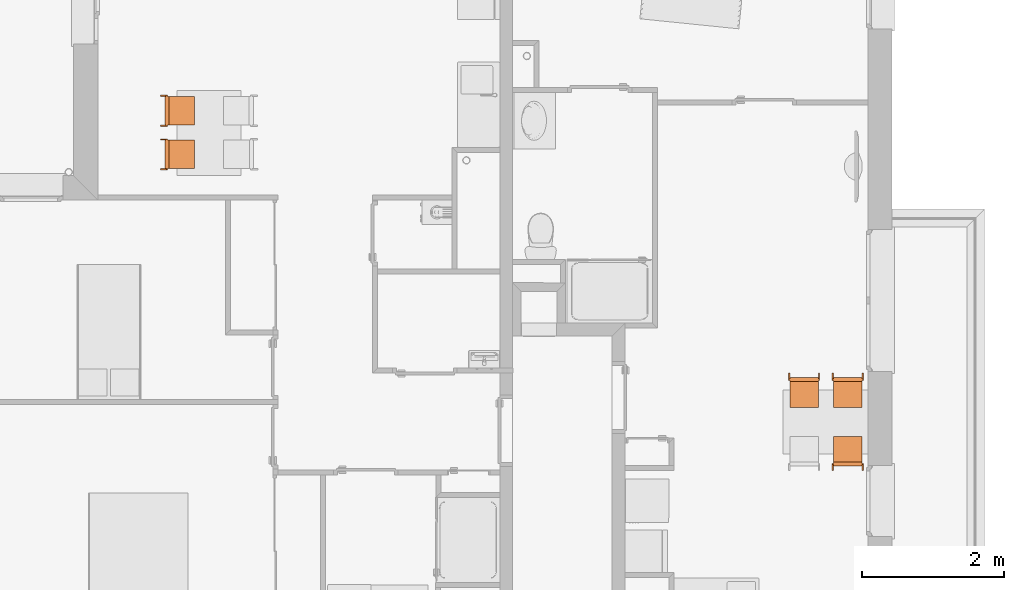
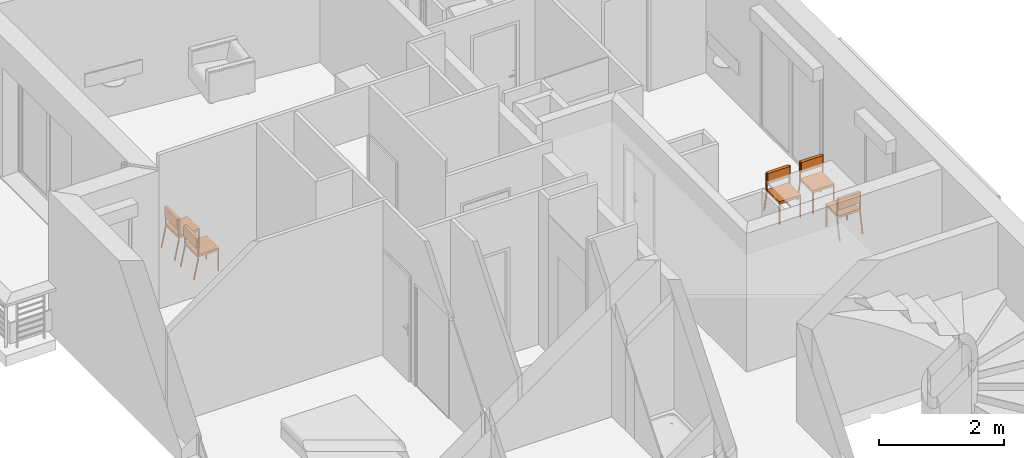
# One storey, part 150 of 164: 5 proxies.
"""IFC2X3 building model written with IfcOpenShell, lengths in millimetres."""

import ifcopenshell
import ifcopenshell.guid

model = None  # the IFC model being written
_history = None  # IfcOwnerHistory: only IFC2X3 demands one
_inside = {}  # id of a spatial element -> (the spatial element, [elements in it])
_under = {}  # id of a project, library or spatial element -> (it, [spatial elements below it])
_declared = {}  # id of a project -> (the project, [libraries it declares])
_typed = {}  # id of a type object -> (the type object, [elements of that type])
_made_of = {}  # id of a material, layer set ... -> (it, [elements and type objects made of it])


def new_model(schema):
    """Start an empty IFC model of exactly this schema.

    Asked for "IFC4X3", IfcOpenShell would pick the latest addendum, in which some entities
    have other attributes; the version numbers below select the first issue.
    IFC2X3 requires an IfcOwnerHistory on every rooted entity: one is made here for all.
    """
    global model, _history
    if schema == "IFC4X3":
        model = ifcopenshell.file(schema_version=(4, 3, 0, 0))
    else:
        model = ifcopenshell.file(schema=schema)
    _inside.clear()
    _under.clear()
    _declared.clear()
    _typed.clear()
    _made_of.clear()
    _history = None
    if model.schema == "IFC2X3":
        org = make("IfcOrganization", Name="unknown")
        user = make(
            "IfcPersonAndOrganization",
            ThePerson=make("IfcPerson", FamilyName="unknown"),
            TheOrganization=org,
        )
        app = make(
            "IfcApplication",
            ApplicationDeveloper=org,
            Version="unknown",
            ApplicationFullName="unknown",
            ApplicationIdentifier="unknown",
        )
        _history = make(
            "IfcOwnerHistory",
            OwningUser=user,
            OwningApplication=app,
            ChangeAction="ADDED",
            CreationDate=0,
        )
    return model


def make(cls, **values):
    """One entity of the class cls with the attributes given. An attribute that is None is left unset."""
    return model.create_entity(
        cls, **{name: value for name, value in values.items() if value is not None}
    )


def entity(cls, *values):
    """Any entity or typed value of the class cls, its attributes in the order of the schema. None: left unset."""
    e = model.create_entity(cls)
    for i, value in enumerate(values):
        if value is not None:
            e[i] = value
    return e


def rooted(cls, **values):
    """An entity with a GlobalId (a new one), such as an element, a storey or a relation."""
    return make(cls, GlobalId=ifcopenshell.guid.new(), OwnerHistory=_history, **values)


def si_unit(unit_type, name, prefix=None):
    """IfcSIUnit, for example si_unit("LENGTHUNIT", "METRE", prefix="MILLI")."""
    return make("IfcSIUnit", UnitType=unit_type, Prefix=prefix, Name=name)


def converted_unit(unit_type, name, factor, base, dimensions=None, offset=None):
    """IfcConversionBasedUnit, such as the inch: factor (a typed value) times the base unit."""
    return make(
        "IfcConversionBasedUnit"
        if offset is None
        else "IfcConversionBasedUnitWithOffset",
        ConversionOffset=offset,
        Dimensions=None
        if dimensions is None
        else entity("IfcDimensionalExponents", *dimensions),
        UnitType=unit_type,
        Name=name,
        ConversionFactor=make(
            "IfcMeasureWithUnit", ValueComponent=factor, UnitComponent=base
        ),
    )


def derived_unit(unit_type, elements):
    """IfcDerivedUnit: a product of units, each with its exponent."""
    return make(
        "IfcDerivedUnit",
        Elements=[
            make("IfcDerivedUnitElement", Unit=unit, Exponent=power)
            for unit, power in elements
        ],
        UnitType=unit_type,
    )


def money_unit(currency):
    """IfcMonetaryUnit."""
    return make("IfcMonetaryUnit", Currency=currency)


def assignment(units):
    """IfcUnitAssignment: the units of a project."""
    return None if units is None else make("IfcUnitAssignment", Units=units)


def point(xyz):
    """IfcCartesianPoint."""
    return None if xyz is None else make("IfcCartesianPoint", Coordinates=xyz)


def direction(xyz):
    """IfcDirection."""
    return None if xyz is None else make("IfcDirection", DirectionRatios=xyz)


def frame(location, z_axis=None, x_axis=None):
    """IfcAxis2Placement3D, a coordinate frame: its origin and axes. An axis left out is left unset."""
    return make(
        "IfcAxis2Placement3D",
        Location=point(location),
        Axis=direction(z_axis),
        RefDirection=direction(x_axis),
    )


def origin_with_axes():
    """The frame at (0, 0, 0) with the z axis (0, 0, 1) and the x axis (1, 0, 0) written out."""
    return frame((0.0, 0.0, 0.0), z_axis=(0.0, 0.0, 1.0), x_axis=(1.0, 0.0, 0.0))


def place(relative_to, where):
    """IfcLocalPlacement: puts the frame where relative to a parent placement (None: the world)."""
    return make(
        "IfcLocalPlacement", PlacementRelTo=relative_to, RelativePlacement=where
    )


def context(
    kind, dimensions, precision=None, world=None, true_north=None, identifier=None
):
    """IfcGeometricRepresentationContext, for example the 3D "Model" context."""
    return make(
        "IfcGeometricRepresentationContext",
        ContextIdentifier=identifier,
        ContextType=kind,
        CoordinateSpaceDimension=dimensions,
        Precision=precision,
        WorldCoordinateSystem=world,
        TrueNorth=true_north,
    )


def subcontext(parent, identifier, kind, view, scale=None):
    """IfcGeometricRepresentationSubContext, for example "Body" below "Model"."""
    return make(
        "IfcGeometricRepresentationSubContext",
        ContextIdentifier=identifier,
        ContextType=kind,
        ParentContext=parent,
        TargetScale=scale,
        TargetView=view,
    )


def project(units=None, contexts=None):
    """IfcProject with its units and contexts."""
    return rooted(
        "IfcProject",
        Name="project",
        RepresentationContexts=contexts,
        UnitsInContext=assignment(units),
    )


def spatial(cls, under=None, at=None, **own):
    """A site, building, storey or space (cls), placed at a placement, below another one or the project."""
    s = rooted(cls, ObjectPlacement=at, **own)
    if under is not None:
        _under.setdefault(under.id(), (under, []))[1].append(s)
    return s


def faces_of(points, faces, orient=None, outer=None):
    """IfcFace entities. A face is a list of loops; a loop is a list of indices into points, from 0.

    orient and outer hold one flag for each loop. By default every Orientation is true, the
    first loop of a face is its IfcFaceOuterBound and the others are IfcFaceBound.
    """
    made = []
    for i, loops in enumerate(faces):
        bounds = []
        for j, loop in enumerate(loops):
            is_outer = j == 0 if outer is None else outer[i][j]
            bounds.append(
                make(
                    "IfcFaceOuterBound" if is_outer else "IfcFaceBound",
                    Bound=make("IfcPolyLoop", Polygon=[points[k] for k in loop]),
                    Orientation=True if orient is None else orient[i][j],
                )
            )
        made.append(make("IfcFace", Bounds=bounds))
    return made


def faceted_brep(points, faces, orient=None, outer=None, voids=None):
    """IfcFacetedBrep: a solid bounded by flat faces; with voids (closed shells), ...WithVoids."""
    shared = [point(p) for p in points]
    hull = make("IfcClosedShell", CfsFaces=faces_of(shared, faces, orient, outer))
    if voids is None:
        return make("IfcFacetedBrep", Outer=hull)
    return make(
        "IfcFacetedBrepWithVoids",
        Outer=hull,
        Voids=[
            make(cls, CfsFaces=faces_of(shared, fs, o, b)) for cls, fs, o, b in voids
        ],
    )


def shape(context_of_items, identifier, shape_type, items):
    """IfcShapeRepresentation: the items that make up one representation, for example the "Body"."""
    return make(
        "IfcShapeRepresentation",
        ContextOfItems=context_of_items,
        RepresentationIdentifier=identifier,
        RepresentationType=shape_type,
        Items=items,
    )


def source(mapping_origin, context_of_items, identifier, shape_type, items):
    """IfcRepresentationMap: a shape defined once, which mapped items show again and again."""
    return make(
        "IfcRepresentationMap",
        MappingOrigin=mapping_origin,
        MappedRepresentation=shape(context_of_items, identifier, shape_type, items),
    )


def transform(
    local_origin,
    x_axis=None,
    y_axis=None,
    z_axis=None,
    scale=None,
    scale2=None,
    scale3=None,
    uniform=True,
):
    """IfcCartesianTransformationOperator3D, or its non-uniform kind. x_axis, y_axis, z_axis: its Axis1, 2, 3."""
    if uniform:
        return make(
            "IfcCartesianTransformationOperator3D",
            Axis1=direction(x_axis),
            Axis2=direction(y_axis),
            LocalOrigin=point(local_origin),
            Scale=scale,
            Axis3=direction(z_axis),
        )
    return make(
        "IfcCartesianTransformationOperator3DnonUniform",
        Axis1=direction(x_axis),
        Axis2=direction(y_axis),
        LocalOrigin=point(local_origin),
        Scale=scale,
        Axis3=direction(z_axis),
        Scale2=scale2,
        Scale3=scale3,
    )


def mapped(mapping_source, mapping_target):
    """IfcMappedItem: shows the shape of a source again, moved by a transform."""
    return make(
        "IfcMappedItem", MappingSource=mapping_source, MappingTarget=mapping_target
    )


def made_of(thing, what):
    """Note that an element or type object is made of a material, layer set ...; save() writes the relation."""
    if what is not None:
        _made_of.setdefault(what.id(), (what, []))[1].append(thing)
    return thing


def type_object(cls, material=None, **own):
    """A type object (cls), such as IfcWallType, which elements share."""
    return made_of(rooted(cls, **own), material)


def element(
    cls,
    number,
    at=None,
    inside=None,
    cuts=None,
    type_object=None,
    material=None,
    context=None,
    identifier="Body",
    shape_type=None,
    held_by="IfcProductDefinitionShape",
    body=None,
    shapes=None,
    **own,
):
    """One element of the class cls, such as IfcWall. Its Tag is "e" and its number.

    at: its placement. inside: the storey or other place that contains it. cuts: it is an
    opening in that element (IfcRelVoidsElement). A single representation is given by context,
    identifier, shape_type and body (its items); several are given by shapes. held_by: the class
    of the entity that holds the representations. save() writes the other relations.
    """
    e = rooted(cls, Tag="e%d" % number, ObjectPlacement=at, **own)
    if body is not None:
        shapes = [shape(context, identifier, shape_type, body)]
    if shapes is not None:
        e.Representation = make(held_by, Representations=shapes)
    if inside is not None:
        _inside.setdefault(inside.id(), (inside, []))[1].append(e)
    if cuts is not None:
        rooted(
            "IfcRelVoidsElement", RelatingBuildingElement=cuts, RelatedOpeningElement=e
        )
    if type_object is not None:
        _typed.setdefault(type_object.id(), (type_object, []))[1].append(e)
    return made_of(e, material)


def aggregate(whole, parts):
    """IfcRelAggregates: a whole, such as a stair, and the parts it consists of."""
    return rooted("IfcRelAggregates", RelatingObject=whole, RelatedObjects=parts)


def save(model, path):
    """Write the relations noted so far, then the file.

    IfcRelAggregates (storeys below a building ...), IfcRelContainedInSpatialStructure (elements
    in a storey), IfcRelDefinesByType, IfcRelAssociatesMaterial and IfcRelDeclares: one each for
    every whole, place, type object, material and project.
    """
    for whole, parts in _under.values():
        aggregate(whole, parts)
    for where, things in _inside.values():
        rooted(
            "IfcRelContainedInSpatialStructure",
            RelatedElements=things,
            RelatingStructure=where,
        )
    for kind, things in _typed.values():
        rooted("IfcRelDefinesByType", RelatedObjects=things, RelatingType=kind)
    for what, things in _made_of.values():
        rooted("IfcRelAssociatesMaterial", RelatedObjects=things, RelatingMaterial=what)
    for by, libraries in _declared.values():
        rooted("IfcRelDeclares", RelatingContext=by, RelatedDefinitions=libraries)
    model.write(path)


model = new_model("IFC2X3")

# Units and contexts
model_context = context("Model", 3, precision=0.01, world=origin_with_axes(), true_north=direction((0.0, 1.0)))
body_context = subcontext(model_context, "Body", "Model", "MODEL_VIEW")
ifc_project = project(units=[si_unit("LENGTHUNIT", "METRE", prefix="MILLI"), si_unit("AREAUNIT", "SQUARE_METRE"), si_unit("VOLUMEUNIT", "CUBIC_METRE"), converted_unit("PLANEANGLEUNIT", "DEGREE", entity("IfcPlaneAngleMeasure", 0.0174532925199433), si_unit("PLANEANGLEUNIT", "RADIAN"), dimensions=[0, 0, 0, 0, 0, 0, 0]), money_unit("USD"), converted_unit("TIMEUNIT", "Year", entity("IfcTimeMeasure", 31557600.0), si_unit("TIMEUNIT", "SECOND"), dimensions=[0, 0, 1, 0, 0, 0, 0]), si_unit("MASSUNIT", "GRAM", prefix="KILO"), si_unit("THERMODYNAMICTEMPERATUREUNIT", "DEGREE_CELSIUS"), si_unit("LUMINOUSINTENSITYUNIT", "LUMEN"), si_unit("ENERGYUNIT", "JOULE", prefix="MEGA"), derived_unit("THERMALCONDUCTANCEUNIT", [(si_unit("POWERUNIT", "WATT"), 1), (si_unit("LENGTHUNIT", "METRE"), -1), (si_unit("THERMODYNAMICTEMPERATUREUNIT", "KELVIN"), -1)]), derived_unit("SPECIFICHEATCAPACITYUNIT", [(si_unit("ENERGYUNIT", "JOULE"), 1), (si_unit("MASSUNIT", "GRAM", prefix="KILO"), -1), (si_unit("THERMODYNAMICTEMPERATUREUNIT", "KELVIN"), -1)]), derived_unit("MASSDENSITYUNIT", [(si_unit("MASSUNIT", "GRAM", prefix="KILO"), 1), (si_unit("VOLUMEUNIT", "CUBIC_METRE"), -1)])], contexts=[model_context])

# Site, building, storey
site_placement = place(None, origin_with_axes())
site = spatial("IfcSite", under=ifc_project, at=site_placement, Name="Site", CompositionType="ELEMENT")
building_placement = place(site_placement, origin_with_axes())
building = spatial("IfcBuilding", under=site, at=building_placement, Name="Bâtiment", CompositionType="ELEMENT")
storey_placement = place(building_placement, frame((0.0, 0.0, 5750.0), z_axis=(0.0, 0.0, 1.0), x_axis=(1.0, 0.0, 0.0)))
storey = spatial("IfcBuildingStorey", under=building, at=storey_placement, Name="Etage1", CompositionType="ELEMENT", Elevation=5750.0)

# Proxies
building_element_proxy_type = type_object("IfcBuildingElementProxyType", PredefinedType="NOTDEFINED")
shared_shape_1 = source(origin_with_axes(), body_context, "Body", "Brep", [
    faceted_brep([(39.99999978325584, 0.0, 0.0), (19.99999989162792, 0.0, 0.0), (19.99999989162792, 19.99999936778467, 0.0), (39.99999978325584, 19.99999936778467, 0.0), (39.99999978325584, 0.0, 400.0), (19.99999989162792, 0.0, 400.0), (19.99999989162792, 19.99999936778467, 400.0), (39.99999978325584, 19.99999936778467, 400.0)], [[[0, 1, 2, 3]], [[1, 0, 4, 5]], [[2, 1, 5, 6]], [[3, 2, 6, 7]], [[0, 3, 7, 4]], [[5, 4, 7, 6]]]),
    faceted_brep([(419.9999977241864, 0.0, 0.0), (399.9999978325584, 0.0, 0.0), (399.9999978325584, 19.99999936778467, 0.0), (419.9999977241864, 19.99999936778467, 0.0), (419.9999977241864, 0.0, 400.0), (399.9999978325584, 0.0, 400.0), (399.9999978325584, 19.99999936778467, 400.0), (419.9999977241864, 19.99999936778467, 400.0)], [[[0, 1, 2, 3]], [[1, 0, 4, 5]], [[2, 1, 5, 6]], [[3, 2, 6, 7]], [[0, 3, 7, 4]], [[5, 4, 7, 6]]]),
    faceted_brep([(399.9999978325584, 0.0, 400.0000000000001), (39.99999978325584, 0.0, 400.0000000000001), (39.99999978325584, 19.99999936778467, 400.0000000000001), (399.9999978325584, 19.99999936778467, 400.0000000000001), (399.9999978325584, 0.0, 420.0000000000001), (39.99999978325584, 0.0, 420.0000000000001), (39.99999978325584, 19.99999936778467, 420.0000000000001), (399.9999978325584, 19.99999936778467, 420.0000000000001)], [[[0, 1, 2, 3]], [[1, 0, 4, 5]], [[2, 1, 5, 6]], [[3, 2, 6, 7]], [[0, 3, 7, 4]], [[5, 4, 7, 6]]]),
    faceted_brep([(39.99999978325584, 19.99999936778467, 400.0000000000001), (19.99999989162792, 19.99999936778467, 400.0000000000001), (19.99999989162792, 379.9999879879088, 400.0000000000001), (39.99999978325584, 379.9999879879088, 400.0000000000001), (39.99999978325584, 19.99999936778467, 420.0000000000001), (19.99999989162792, 19.99999936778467, 420.0000000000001), (19.99999989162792, 379.9999879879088, 420.0000000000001), (39.99999978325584, 379.9999879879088, 420.0000000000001)], [[[0, 1, 2, 3]], [[1, 0, 4, 5]], [[2, 1, 5, 6]], [[3, 2, 6, 7]], [[0, 3, 7, 4]], [[5, 4, 7, 6]]]),
    faceted_brep([(419.9999977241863, 379.9999879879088, 400.0000000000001), (19.99999989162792, 379.9999879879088, 400.0000000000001), (19.99999989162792, 399.9999873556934, 400.0000000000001), (419.9999977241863, 399.9999873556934, 400.0000000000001), (419.9999977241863, 379.9999879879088, 420.0000000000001), (19.99999989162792, 379.9999879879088, 420.0000000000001), (19.99999989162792, 399.9999873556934, 420.0000000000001), (419.9999977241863, 399.9999873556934, 420.0000000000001)], [[[0, 1, 2, 3]], [[1, 0, 4, 5]], [[2, 1, 5, 6]], [[3, 2, 6, 7]], [[0, 3, 7, 4]], [[5, 4, 7, 6]]]),
    faceted_brep([(419.9999977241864, 19.99999936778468, 400.0000000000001), (399.9999978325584, 19.99999936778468, 400.0000000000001), (399.9999978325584, 379.9999879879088, 400.0000000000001), (419.9999977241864, 379.9999879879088, 400.0000000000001), (419.9999977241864, 19.99999936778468, 420.0000000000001), (399.9999978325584, 19.99999936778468, 420.0000000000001), (399.9999978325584, 379.9999879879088, 420.0000000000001), (419.9999977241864, 379.9999879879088, 420.0000000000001)], [[[0, 1, 2, 3]], [[1, 0, 4, 5]], [[2, 1, 5, 6]], [[3, 2, 6, 7]], [[0, 3, 7, 4]], [[5, 4, 7, 6]]]),
    faceted_brep([(419.9999977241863, 0.0, 400.0), (19.99999989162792, 0.0, 400.0), (19.99999989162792, 399.9999873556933, 400.0), (419.9999977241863, 399.9999873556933, 400.0), (419.9999977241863, 0.0, 450.0), (19.99999989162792, 0.0, 450.0), (19.99999989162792, 399.9999873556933, 450.0), (419.9999977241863, 399.9999873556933, 450.0)], [[[0, 1, 2, 3]], [[1, 0, 4, 5]], [[2, 1, 5, 6]], [[3, 2, 6, 7]], [[0, 3, 7, 4]], [[5, 4, 7, 6]]]),
    faceted_brep([(19.99999989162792, 379.9999879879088, 380.0), (0.0, 379.9999879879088, 380.0), (0.0, 399.9999873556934, 380.0), (19.99999989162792, 399.9999873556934, 380.0), (19.99999989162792, 379.9999879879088, 780.0), (0.0, 379.9999879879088, 780.0), (0.0, 399.9999873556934, 780.0), (19.99999989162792, 399.9999873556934, 780.0)], [[[0, 1, 2, 3]], [[1, 0, 4, 5]], [[2, 1, 5, 6]], [[3, 2, 6, 7]], [[0, 3, 7, 4]], [[5, 4, 7, 6]]]),
    faceted_brep([(439.9999976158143, 379.9999879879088, 380.0), (419.9999977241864, 379.9999879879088, 380.0), (419.9999977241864, 399.9999873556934, 380.0), (439.9999976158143, 399.9999873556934, 380.0), (439.9999976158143, 379.9999879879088, 780.0), (419.9999977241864, 379.9999879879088, 780.0), (419.9999977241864, 399.9999873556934, 780.0), (439.9999976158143, 399.9999873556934, 780.0)], [[[0, 1, 2, 3]], [[1, 0, 4, 5]], [[2, 1, 5, 6]], [[3, 2, 6, 7]], [[0, 3, 7, 4]], [[5, 4, 7, 6]]]),
    faceted_brep([(419.9999977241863, 359.999988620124, 580.0000000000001), (19.99999989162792, 359.999988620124, 580.0000000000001), (19.99999989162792, 419.9999867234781, 580.0000000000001), (419.9999977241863, 419.9999867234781, 580.0000000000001), (419.9999977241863, 359.999988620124, 780.0), (19.99999989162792, 359.999988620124, 780.0), (19.99999989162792, 419.9999867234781, 780.0), (419.9999977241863, 419.9999867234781, 780.0)], [[[0, 1, 2, 3]], [[1, 0, 4, 5]], [[2, 1, 5, 6]], [[3, 2, 6, 7]], [[0, 3, 7, 4]], [[5, 4, 7, 6]]]),
    faceted_brep([(19.99999989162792, 459.9999854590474, 0.0), (0.0, 459.9999854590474, 0.0), (0.0, 479.5709559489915, 4.120326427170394), (19.99999989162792, 479.5709559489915, 4.120326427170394), (19.99999989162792, 379.997669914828, 379.999760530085), (0.0, 379.997669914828, 379.999760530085), (0.0, 399.5686404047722, 384.1200869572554), (19.99999989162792, 399.5686404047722, 384.1200869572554)], [[[0, 1, 2, 3]], [[1, 0, 4, 5]], [[2, 1, 5, 6]], [[3, 2, 6, 7]], [[0, 3, 7, 4]], [[5, 4, 7, 6]]]),
    faceted_brep([(439.9999976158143, 459.9999854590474, 0.0), (419.9999977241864, 459.9999854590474, 0.0), (419.9999977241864, 479.5709559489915, 4.120326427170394), (439.9999976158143, 479.5709559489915, 4.120326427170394), (439.9999976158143, 379.997669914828, 379.999760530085), (419.9999977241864, 379.997669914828, 379.999760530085), (419.9999977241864, 399.5686404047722, 384.1200869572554), (439.9999976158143, 399.5686404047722, 384.1200869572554)], [[[0, 1, 2, 3]], [[1, 0, 4, 5]], [[2, 1, 5, 6]], [[3, 2, 6, 7]], [[0, 3, 7, 4]], [[5, 4, 7, 6]]]),
])
for number, where, z_axis, x_axis, name in (
    (1, (2219837.288692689, -625991.3020928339, 0.0), (0.0, 0.0, 1.0), (-0.0005412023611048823, 0.9999998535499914, 0.0), "Obj.-027"),
    (2, (2228193.254614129, -629330.6936400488, 0.0), (0.0, 0.0, 1.0), (1.0, 0.0, 0.0), "Obj.-027"),
    (3, (2228808.38001904, -629330.6936400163, 0.0), (0.0, 0.0, 1.0), (1.0, 0.0, 0.0), "Obj.-027"),
    (4, (2219836.955785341, -625376.1767780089, 0.0), (0.0, 0.0, 1.0), (-0.0005412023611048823, 0.9999998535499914, 0.0), "Obj.-027"),
):
    element("IfcBuildingElementProxy", number, at=place(storey_placement, frame(where, z_axis=z_axis, x_axis=x_axis)), inside=storey, type_object=building_element_proxy_type, Name=name, context=body_context, shape_type="MappedRepresentation", body=[
        mapped(shared_shape_1, transform((0.0, 0.0, 0.0))),
    ])
shared_shape_2 = source(origin_with_axes(), body_context, "Body", "Brep", [
    faceted_brep([(-39.99999978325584, 0.0, 0.0), (-39.99999978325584, 19.99999936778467, 0.0), (-19.99999989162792, 19.99999936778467, 0.0), (-19.99999989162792, 0.0, 0.0), (-39.99999978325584, 0.0, 400.0), (-39.99999978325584, 19.99999936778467, 400.0), (-19.99999989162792, 19.99999936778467, 400.0), (-19.99999989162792, 0.0, 400.0)], [[[0, 1, 2, 3]], [[0, 4, 5, 1]], [[1, 5, 6, 2]], [[2, 6, 7, 3]], [[3, 7, 4, 0]], [[7, 6, 5, 4]]]),
    faceted_brep([(-419.9999977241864, 0.0, 0.0), (-419.9999977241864, 19.99999936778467, 0.0), (-399.9999978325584, 19.99999936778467, 0.0), (-399.9999978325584, 0.0, 0.0), (-419.9999977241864, 0.0, 400.0), (-419.9999977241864, 19.99999936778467, 400.0), (-399.9999978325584, 19.99999936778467, 400.0), (-399.9999978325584, 0.0, 400.0)], [[[0, 1, 2, 3]], [[0, 4, 5, 1]], [[1, 5, 6, 2]], [[2, 6, 7, 3]], [[3, 7, 4, 0]], [[7, 6, 5, 4]]]),
    faceted_brep([(-399.9999978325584, 0.0, 400.0000000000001), (-399.9999978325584, 19.99999936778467, 400.0000000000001), (-39.99999978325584, 19.99999936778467, 400.0000000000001), (-39.99999978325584, 0.0, 400.0000000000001), (-399.9999978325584, 0.0, 420.0000000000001), (-399.9999978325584, 19.99999936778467, 420.0000000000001), (-39.99999978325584, 19.99999936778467, 420.0000000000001), (-39.99999978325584, 0.0, 420.0000000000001)], [[[0, 1, 2, 3]], [[0, 4, 5, 1]], [[1, 5, 6, 2]], [[2, 6, 7, 3]], [[3, 7, 4, 0]], [[7, 6, 5, 4]]]),
    faceted_brep([(-39.99999978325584, 19.99999936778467, 400.0000000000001), (-39.99999978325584, 379.9999879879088, 400.0000000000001), (-19.99999989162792, 379.9999879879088, 400.0000000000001), (-19.99999989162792, 19.99999936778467, 400.0000000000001), (-39.99999978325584, 19.99999936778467, 420.0000000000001), (-39.99999978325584, 379.9999879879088, 420.0000000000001), (-19.99999989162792, 379.9999879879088, 420.0000000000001), (-19.99999989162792, 19.99999936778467, 420.0000000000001)], [[[0, 1, 2, 3]], [[0, 4, 5, 1]], [[1, 5, 6, 2]], [[2, 6, 7, 3]], [[3, 7, 4, 0]], [[7, 6, 5, 4]]]),
    faceted_brep([(-419.9999977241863, 379.9999879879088, 400.0000000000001), (-419.9999977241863, 399.9999873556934, 400.0000000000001), (-19.99999989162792, 399.9999873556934, 400.0000000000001), (-19.99999989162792, 379.9999879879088, 400.0000000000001), (-419.9999977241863, 379.9999879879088, 420.0000000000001), (-419.9999977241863, 399.9999873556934, 420.0000000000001), (-19.99999989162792, 399.9999873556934, 420.0000000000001), (-19.99999989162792, 379.9999879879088, 420.0000000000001)], [[[0, 1, 2, 3]], [[0, 4, 5, 1]], [[1, 5, 6, 2]], [[2, 6, 7, 3]], [[3, 7, 4, 0]], [[7, 6, 5, 4]]]),
    faceted_brep([(-419.9999977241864, 19.99999936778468, 400.0000000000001), (-419.9999977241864, 379.9999879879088, 400.0000000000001), (-399.9999978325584, 379.9999879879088, 400.0000000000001), (-399.9999978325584, 19.99999936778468, 400.0000000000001), (-419.9999977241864, 19.99999936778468, 420.0000000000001), (-419.9999977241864, 379.9999879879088, 420.0000000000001), (-399.9999978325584, 379.9999879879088, 420.0000000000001), (-399.9999978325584, 19.99999936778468, 420.0000000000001)], [[[0, 1, 2, 3]], [[0, 4, 5, 1]], [[1, 5, 6, 2]], [[2, 6, 7, 3]], [[3, 7, 4, 0]], [[7, 6, 5, 4]]]),
    faceted_brep([(-419.9999977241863, 0.0, 400.0), (-419.9999977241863, 399.9999873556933, 400.0), (-19.99999989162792, 399.9999873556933, 400.0), (-19.99999989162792, 0.0, 400.0), (-419.9999977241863, 0.0, 450.0), (-419.9999977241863, 399.9999873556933, 450.0), (-19.99999989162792, 399.9999873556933, 450.0), (-19.99999989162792, 0.0, 450.0)], [[[0, 1, 2, 3]], [[0, 4, 5, 1]], [[1, 5, 6, 2]], [[2, 6, 7, 3]], [[3, 7, 4, 0]], [[7, 6, 5, 4]]]),
    faceted_brep([(-19.99999989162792, 379.9999879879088, 380.0), (-19.99999989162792, 399.9999873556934, 380.0), (0.0, 399.9999873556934, 380.0), (0.0, 379.9999879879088, 380.0), (-19.99999989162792, 379.9999879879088, 780.0), (-19.99999989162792, 399.9999873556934, 780.0), (0.0, 399.9999873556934, 780.0), (0.0, 379.9999879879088, 780.0)], [[[0, 1, 2, 3]], [[0, 4, 5, 1]], [[1, 5, 6, 2]], [[2, 6, 7, 3]], [[3, 7, 4, 0]], [[7, 6, 5, 4]]]),
    faceted_brep([(-439.9999976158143, 379.9999879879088, 380.0), (-439.9999976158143, 399.9999873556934, 380.0), (-419.9999977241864, 399.9999873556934, 380.0), (-419.9999977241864, 379.9999879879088, 380.0), (-439.9999976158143, 379.9999879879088, 780.0), (-439.9999976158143, 399.9999873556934, 780.0), (-419.9999977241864, 399.9999873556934, 780.0), (-419.9999977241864, 379.9999879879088, 780.0)], [[[0, 1, 2, 3]], [[0, 4, 5, 1]], [[1, 5, 6, 2]], [[2, 6, 7, 3]], [[3, 7, 4, 0]], [[7, 6, 5, 4]]]),
    faceted_brep([(-419.9999977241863, 359.999988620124, 580.0000000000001), (-419.9999977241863, 419.9999867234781, 580.0000000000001), (-19.99999989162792, 419.9999867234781, 580.0000000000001), (-19.99999989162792, 359.999988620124, 580.0000000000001), (-419.9999977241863, 359.999988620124, 780.0), (-419.9999977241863, 419.9999867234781, 780.0), (-19.99999989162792, 419.9999867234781, 780.0), (-19.99999989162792, 359.999988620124, 780.0)], [[[0, 1, 2, 3]], [[0, 4, 5, 1]], [[1, 5, 6, 2]], [[2, 6, 7, 3]], [[3, 7, 4, 0]], [[7, 6, 5, 4]]]),
    faceted_brep([(-19.99999989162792, 459.9999854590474, 0.0), (-19.99999989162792, 479.5709559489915, 4.120326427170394), (0.0, 479.5709559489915, 4.120326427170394), (0.0, 459.9999854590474, 0.0), (-19.99999989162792, 379.997669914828, 379.999760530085), (-19.99999989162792, 399.5686404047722, 384.1200869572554), (0.0, 399.5686404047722, 384.1200869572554), (0.0, 379.997669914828, 379.999760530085)], [[[0, 1, 2, 3]], [[0, 4, 5, 1]], [[1, 5, 6, 2]], [[2, 6, 7, 3]], [[3, 7, 4, 0]], [[7, 6, 5, 4]]]),
    faceted_brep([(-439.9999976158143, 459.9999854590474, 0.0), (-439.9999976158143, 479.5709559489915, 4.120326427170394), (-419.9999977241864, 479.5709559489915, 4.120326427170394), (-419.9999977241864, 459.9999854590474, 0.0), (-439.9999976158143, 379.997669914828, 379.999760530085), (-439.9999976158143, 399.5686404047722, 384.1200869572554), (-419.9999977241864, 399.5686404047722, 384.1200869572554), (-419.9999977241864, 379.997669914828, 379.999760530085)], [[[0, 1, 2, 3]], [[0, 4, 5, 1]], [[1, 5, 6, 2]], [[2, 6, 7, 3]], [[3, 7, 4, 0]], [[7, 6, 5, 4]]]),
])
proxy_placement = place(storey_placement, frame((2228808.380019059, -629738.7510234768, 0.0), z_axis=(0.0, 0.0, 1.0), x_axis=(-1.0, 0.0, 0.0)))
element("IfcBuildingElementProxy", 5, at=proxy_placement, inside=storey, type_object=building_element_proxy_type, Name="Obj.-027", context=body_context, shape_type="MappedRepresentation", body=[
    mapped(shared_shape_2, transform((0.0, 0.0, 0.0))),
])

save(model, "model.ifc")
